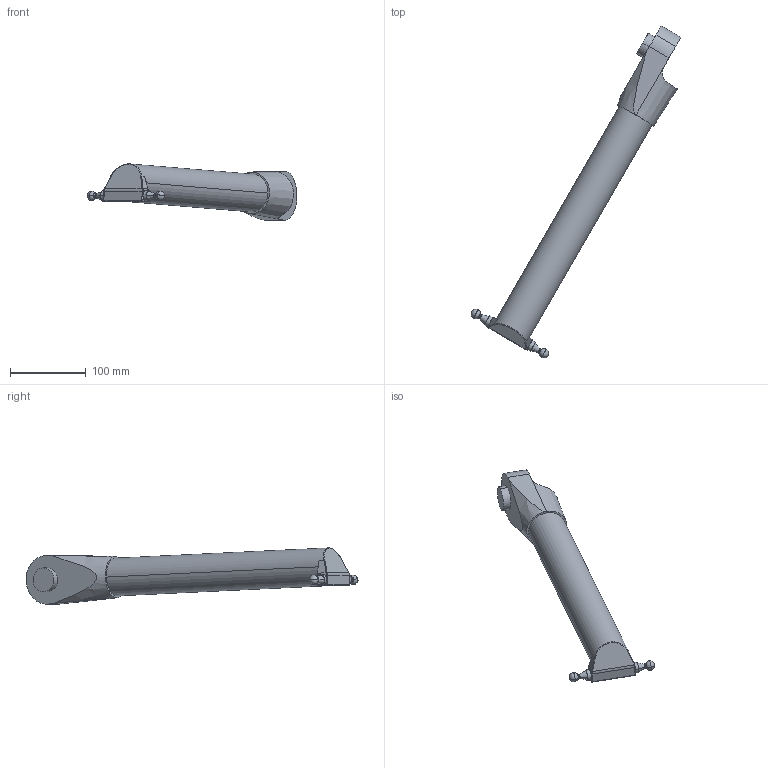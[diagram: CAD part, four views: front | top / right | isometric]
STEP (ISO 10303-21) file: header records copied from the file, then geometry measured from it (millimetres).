
FILE_DESCRIPTION (( 'STEP AP214' ), '1' );
FILE_NAME ('IRB365_1.5-1300_OmniCore_rev00_UPPER_ARM_2_CAD.step', '2025-09-09T11:52:43', ( '' ), ( '' ), 'SwSTEP 2.0', 'SolidWorks 2024', '' );
FILE_SCHEMA (( 'AUTOMOTIVE_DESIGN' ));
Length unit declared in the file: millimetre
Products named in the file (1): IRB365_1.5-1300_OmniCore_rev00_UPPER_ARM_2_CAD
Bounding box: 277.52 x 439.08 x 74.3 mm (x, y, z)
Volume: 953248.4 mm3; surface area: 83451.8 mm2
Topology: 1 solids, 1 shells, 86 faces, 201 edges, 111 vertices
Faces by surface type: plane 28, cylinder 27, torus 10, sphere 10, cone 6, bspline 5
Entity records: 3967 total; most frequent: CARTESIAN_POINT 1104, DIRECTION 439, ORIENTED_EDGE 374, EDGE_CURVE 187, AXIS2_PLACEMENT_3D 185, VERTEX_POINT 107, CIRCLE 103, EDGE_LOOP 90
